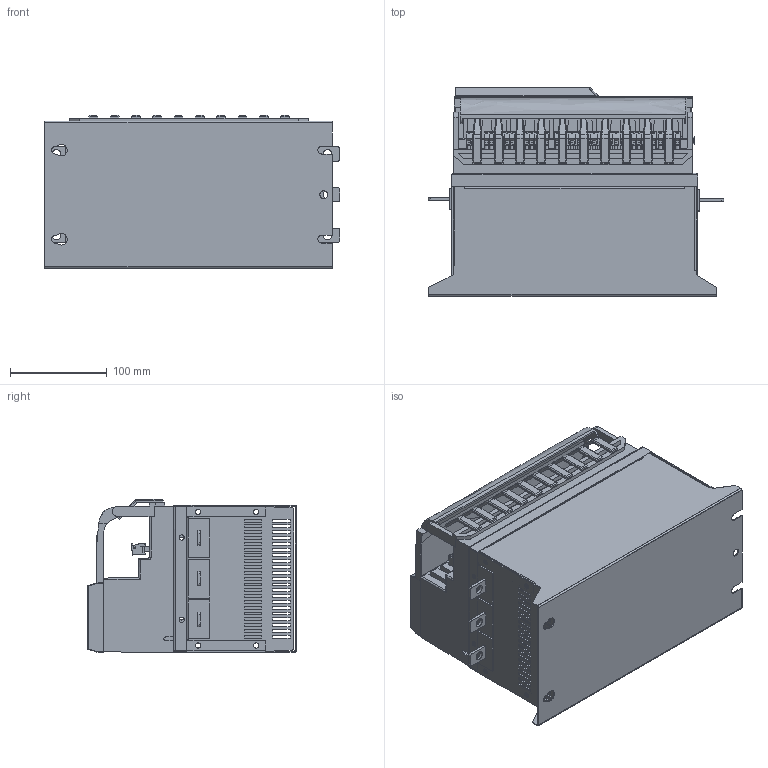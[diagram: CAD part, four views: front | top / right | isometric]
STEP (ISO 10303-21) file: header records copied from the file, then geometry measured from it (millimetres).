
FILE_DESCRIPTION(('STEP AP203'), '1');
FILE_NAME('SNI 5.5-55 êÂò', '2024-05-06T17:49:57', ('admin'), (''), 'C3D Converter', 'C3D Toolkit', '');
FILE_SCHEMA(('CONFIG_CONTROL_DESIGN'));
Length unit declared in the file: millimetre
Products named in the file (40): SNI-11/13-06; SNI; 7000-DUANZI-750-1P__AF3_1_1_RNM; 7000-DUANZI-750-1P__AF2_1_1_RNM; 7000-DUANZI-750-1P__AF5_1_1_RNM; 7000-DUANZI-750-1P__AF4_1_1_RNM; 7000-DUANZI-750-1P__AF7_1_1_RNM; 7000-DUANZI-750-1P__AF6_1_1_RNM; 7000-DUANZI-750-1P__AF9_1_1_RNM; 7000-DUANZI-750-1P__AF8_1_1_RNM; 7000-DUANZI-750-1P__AF11_1_1_1; 7000-DUANZI-750-1P__AF10_1_1_1; 7000-DUANZI-5-2P__1_1_RNM_1
Assembly tree (74 placements, depth 5):
  SNI-11/13-06
    SNI
    SNI
    SNI
    SNI
      SNI  x3
      SNI  x3
    SNI
    SNI  x3
    SNI
      SNI
      SNI
      SNI  x10
      SNI
        SNI
        SNI
        SNI
        SNI
      SNI
      SNI
        SNI
        SNI
          SNI
          SNI
        SNI
          7000-DUANZI-750-1P__AF3_1_1_RNM
          7000-DUANZI-750-1P__AF2_1_1_RNM
          7000-DUANZI-750-1P__AF5_1_1_RNM
          7000-DUANZI-750-1P__AF4_1_1_RNM
          7000-DUANZI-750-1P__AF7_1_1_RNM
          7000-DUANZI-750-1P__AF6_1_1_RNM
          7000-DUANZI-750-1P__AF9_1_1_RNM
          7000-DUANZI-750-1P__AF8_1_1_RNM
          7000-DUANZI-750-1P__AF11_1_1_1
          7000-DUANZI-750-1P__AF10_1_1_1
        SNI
          7000-DUANZI-5-2P__1_1_RNM_1  x10
        SNI  x3
          7000-DUANZI-5-2P__1_1_RNM_1
        SNI
          7000-DUANZI-5-2P__1_1_RNM_1  x5
    SNI  x3
Bounding box: 305 x 215.6 x 158.5 mm (x, y, z)
Volume: 765338.2 mm3; surface area: 819869.3 mm2
Topology: 66 solids, 69 shells, 4239 faces, 10949 edges, 7033 vertices
Faces by surface type: plane 3004, cylinder 983, bspline 97, cone 77, torus 48, sphere 22, extrusion 8
Full cylindrical faces by diameter (mm): 0.5 x2, 0.8 x9, 1 x9, 2 x7, 2.3 x8, 3 x41, 3.2 x4, 3.3 x6, 3.7 x4, 3.8 x33, 4 x33, 4.064 x4, 4.301 x3, 4.5 x6, 5.4 x24, 6 x6, 7 x3, 7.2 x8, 8 x1, 9 x6
Entity records: 119359 total; most frequent: CARTESIAN_POINT 29352, ORIENTED_EDGE 13604, DIRECTION 13024, EDGE_CURVE 6822, VECTOR 5160, LINE 5152, VERTEX_POINT 4503, AXIS2_PLACEMENT_3D 3932
